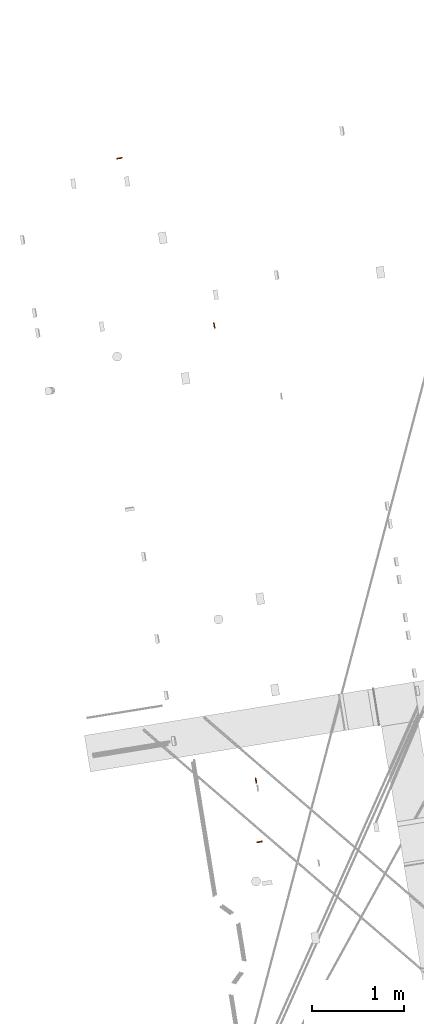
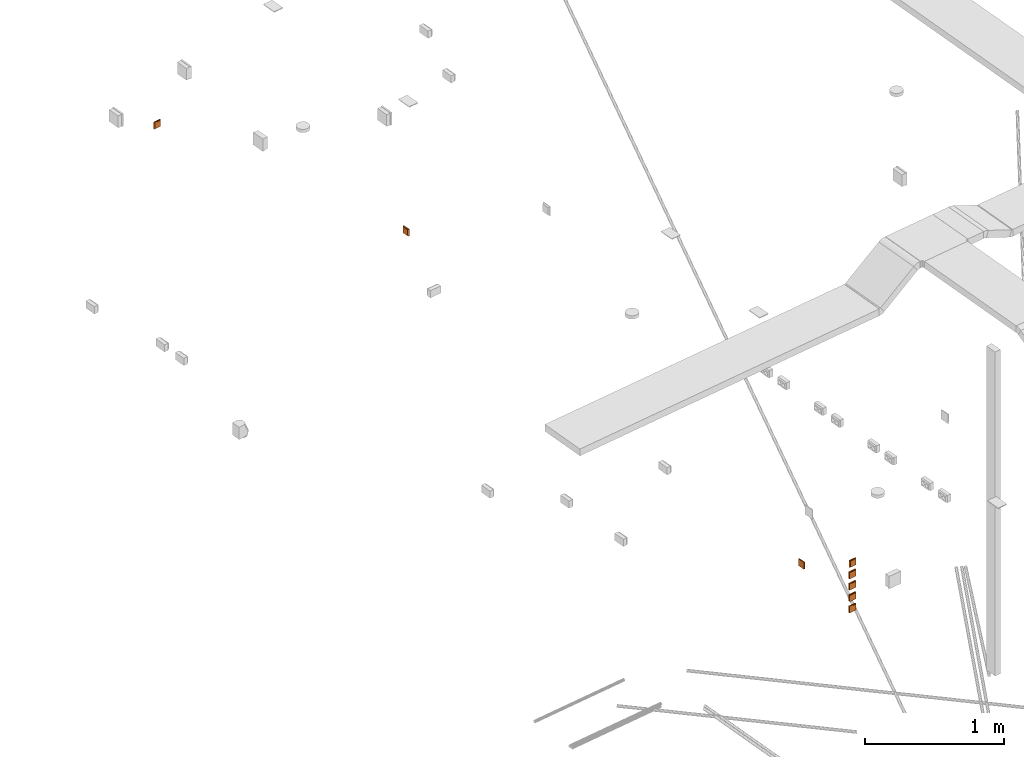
# One storey, part 33 of 33: 8 proxies.
"""IFC2X3 building model written with IfcOpenShell, lengths in millimetres."""

from ifc_helpers import new_model, entity, si_unit, converted_unit, derived_unit, direction, frame, frame_2d, origin, origin_with_axes, origin_2d_with_axis, place, context, subcontext, project, spatial, rectangle, extrude, source, transform, mapped, material, type_object, element, save


model = new_model("IFC2X3")

# Units and contexts
plan_context = context("Plan", 3, precision=1e-05, world=origin_with_axes())
model_context = context("Model", 3, precision=0.01, world=origin(), true_north=direction((6.12323399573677e-17, 1.0)))
body_context = subcontext(model_context, "Body", "Model", "MODEL_VIEW")
ifc_project = project(units=[converted_unit("PLANEANGLEUNIT", "DEGREE", entity("IfcPositiveLengthMeasure", 0.0174532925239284), si_unit("PLANEANGLEUNIT", "RADIAN"), dimensions=[0, 0, 0, 0, 0, 0, 0]), si_unit("AREAUNIT", "SQUARE_METRE"), si_unit("LENGTHUNIT", "METRE", prefix="MILLI"), si_unit("MASSUNIT", "GRAM", prefix="KILO"), si_unit("POWERUNIT", "WATT"), si_unit("PRESSUREUNIT", "PASCAL", prefix="KILO"), si_unit("FORCEUNIT", "NEWTON", prefix="KILO"), si_unit("ELECTRICVOLTAGEUNIT", "VOLT"), si_unit("ELECTRICCURRENTUNIT", "AMPERE"), si_unit("THERMODYNAMICTEMPERATUREUNIT", "DEGREE_CELSIUS"), si_unit("TIMEUNIT", "SECOND"), si_unit("VOLUMEUNIT", "CUBIC_METRE"), derived_unit("LINEARVELOCITYUNIT", [(si_unit("LENGTHUNIT", "METRE"), 1), (si_unit("TIMEUNIT", "SECOND"), -1)]), derived_unit("VOLUMETRICFLOWRATEUNIT", [(si_unit("VOLUMEUNIT", "CUBIC_METRE"), 1), (si_unit("TIMEUNIT", "SECOND"), -1)]), derived_unit("THERMALTRANSMITTANCEUNIT", [(si_unit("POWERUNIT", "WATT"), 1), (si_unit("THERMODYNAMICTEMPERATUREUNIT", "KELVIN"), -1), (si_unit("AREAUNIT", "SQUARE_METRE"), -1)]), derived_unit("SOUNDPRESSUREUNIT", [(si_unit("PRESSUREUNIT", "PASCAL"), 1)])], contexts=[model_context, plan_context])

# Site, building, storey
site_placement = place(None, frame((-0.219946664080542, 0.12226179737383, 0.0), z_axis=(0.0, 0.0, 1.0), x_axis=(-0.160236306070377, 0.987078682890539, 0.0)))
site = spatial("IfcSite", under=ifc_project, at=site_placement, Name="Default", CompositionType="ELEMENT")
building_placement = place(site_placement, origin_with_axes())
building = spatial("IfcBuilding", under=site, at=building_placement, CompositionType="ELEMENT")
storey_placement = place(building_placement, frame((0.0, 0.0, 59000.0), z_axis=(0.0, 0.0, 1.0), x_axis=(1.0, 0.0, 0.0)))
storey = spatial("IfcBuildingStorey", under=building, at=storey_placement, Name="Nivå F", CompositionType="ELEMENT", Elevation=59000.0)

# Proxies
ifc_material = material(Name="Material1")
building_element_proxy_type_1 = type_object("IfcBuildingElementProxyType", Name="Bryter 1-polet m_boks", PredefinedType="NOTDEFINED", material=ifc_material)
shared_shape = source(origin(), body_context, "Body", "SweptSolid", [
    extrude(rectangle(XDim=2.0, YDim=51.9999999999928, at=frame_2d((-1.0547118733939e-15, 0.0), x_axis=(1.0, 0.0))), frame((0.0, 11.0, -26.0), z_axis=(0.0, 0.0, 1.0), x_axis=(0.0, -1.0, 0.0)), (0.0, 0.0, 1.0), 52.0000000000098),
    extrude(rectangle(XDim=10.0, YDim=60.0, at=origin_2d_with_axis()), frame((0.0, 5.0, -30.0), z_axis=(0.0, 0.0, 1.0), x_axis=(0.0, 1.0, 0.0)), (0.0, 0.0, 1.0), 60.0000000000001),
])
for number, where, z_axis, x_axis, name in (
    (1, (781787.619644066, -502225.264103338, 1400.0), (0.0, 0.0, 1.0), (-0.0174524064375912, 0.999847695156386, 0.0), "Bryter 1-polet m_boks"),
    (2, (774242.619644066, -502534.975574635, 1100.0), (0.0, 0.0, 1.0), (-0.0174524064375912, 0.999847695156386, 0.0), "Bryter 1-polet m_boks"),
):
    element("IfcBuildingElementProxy", number, at=place(storey_placement, frame(where, z_axis=z_axis, x_axis=x_axis)), inside=storey, type_object=building_element_proxy_type_1, material=ifc_material, Name=name, ObjectType="Bryter 1-polet m_boks", context=body_context, shape_type="MappedRepresentation", body=[
        mapped(shared_shape, transform((0.0, 0.0, 0.0), scale=1.0)),
    ])
building_element_proxy_type_2 = type_object("IfcBuildingElementProxyType", Name="Bryter 1-polet m_boks", PredefinedType="NOTDEFINED", material=ifc_material)
proxy_1_placement = place(storey_placement, frame((774242.619644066, -502534.975574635, 1200.0), z_axis=(0.0, 0.0, 1.0), x_axis=(-0.0174524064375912, 0.999847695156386, 0.0)))
element("IfcBuildingElementProxy", 3, at=proxy_1_placement, inside=storey, type_object=building_element_proxy_type_2, material=ifc_material, Name="Bryter 1-polet m_boks", ObjectType="Bryter 1-polet m_boks", context=body_context, shape_type="MappedRepresentation", body=[
    mapped(shared_shape, transform((0.0, 0.0, 0.0), scale=1.0)),
])
building_element_proxy_type_3 = type_object("IfcBuildingElementProxyType", Name="Bryter 1-polet m_boks", PredefinedType="NOTDEFINED", material=ifc_material)
proxy_2_placement = place(storey_placement, frame((774242.619644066, -502534.975574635, 1300.0), z_axis=(0.0, 0.0, 1.0), x_axis=(-0.0174524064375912, 0.999847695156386, 0.0)))
element("IfcBuildingElementProxy", 4, at=proxy_2_placement, inside=storey, type_object=building_element_proxy_type_3, material=ifc_material, Name="Bryter 1-polet m_boks", ObjectType="Bryter 1-polet m_boks", context=body_context, shape_type="MappedRepresentation", body=[
    mapped(shared_shape, transform((0.0, 0.0, 0.0), scale=1.0)),
])
building_element_proxy_type_4 = type_object("IfcBuildingElementProxyType", Name="Bryter 1-polet m_boks", PredefinedType="NOTDEFINED", material=ifc_material)
proxy_3_placement = place(storey_placement, frame((774242.619644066, -502534.975574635, 1400.0), z_axis=(0.0, 0.0, 1.0), x_axis=(-0.0174524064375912, 0.999847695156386, 0.0)))
element("IfcBuildingElementProxy", 5, at=proxy_3_placement, inside=storey, type_object=building_element_proxy_type_4, material=ifc_material, Name="Bryter 1-polet m_boks", ObjectType="Bryter 1-polet m_boks", context=body_context, shape_type="MappedRepresentation", body=[
    mapped(shared_shape, transform((0.0, 0.0, 0.0), scale=1.0)),
])
building_element_proxy_type_5 = type_object("IfcBuildingElementProxyType", Name="Trykk knapp bryter", PredefinedType="NOTDEFINED", material=ifc_material)
proxy_4_placement = place(storey_placement, frame((774897.34007269, -502597.480498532, 1100.0), z_axis=(0.0, 0.0, 1.0), x_axis=(-1.0, 0.0, 0.0)))
element("IfcBuildingElementProxy", 6, at=proxy_4_placement, inside=storey, type_object=building_element_proxy_type_5, material=ifc_material, Name="Trykk knapp bryter", ObjectType="Trykk knapp bryter", context=body_context, shape_type="MappedRepresentation", body=[
    mapped(shared_shape, transform((0.0, 0.0, 0.0), scale=1.0)),
])
building_element_proxy_type_6 = type_object("IfcBuildingElementProxyType", Name="Trykk knapp bryter", PredefinedType="NOTDEFINED", material=ifc_material)
proxy_5_placement = place(storey_placement, frame((774241.397349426, -502535.804494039, 1500.0), z_axis=(0.0, 0.0, 1.0), x_axis=(0.0, 1.0, 0.0)))
element("IfcBuildingElementProxy", 7, at=proxy_5_placement, inside=storey, type_object=building_element_proxy_type_6, material=ifc_material, Name="Trykk knapp bryter", ObjectType="Trykk knapp bryter", context=body_context, shape_type="MappedRepresentation", body=[
    mapped(shared_shape, transform((0.0, 0.0, 0.0), scale=1.0)),
])
building_element_proxy_type_7 = type_object("IfcBuildingElementProxyType", Name="Bryter 2-polet påvegg", PredefinedType="NOTDEFINED", material=ifc_material)
proxy_6_placement = place(storey_placement, frame((779829.920714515, -502953.21274815, 1200.0), z_axis=(0.0, 0.0, 1.0), x_axis=(0.999847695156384, 0.0174524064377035, 0.0)))
element("IfcBuildingElementProxy", 8, at=proxy_6_placement, inside=storey, type_object=building_element_proxy_type_7, material=ifc_material, Name="Bryter 2-polet påvegg", ObjectType="Bryter 2-polet påvegg", context=body_context, shape_type="MappedRepresentation", body=[
    mapped(shared_shape, transform((0.0, 0.0, 0.0), scale=1.0)),
])

save(model, "model.ifc")
